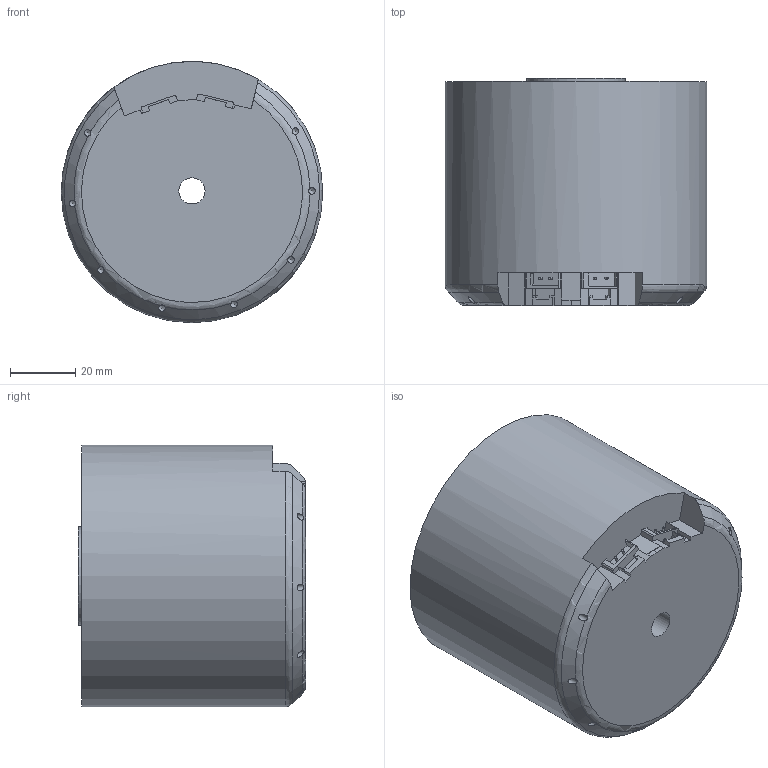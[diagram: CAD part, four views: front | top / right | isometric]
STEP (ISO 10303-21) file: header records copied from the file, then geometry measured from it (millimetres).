
FILE_DESCRIPTION(/* description */ (''),/* implementation_level */ '2;1');
FILE_NAME(/* name */ 'RMBOT80-25-P1-25Nm-PC2.stp',/* time_stamp */ '2025-05-30T20:41:30+08:00',/* author */ (''),/* organization */ (''),/* preprocessor_version */ 'ST-DEVELOPER v16',/* originating_system */ 'SIEMENS PLM Software NX 10.0',/* authorisation */ '');
FILE_SCHEMA (('CONFIG_CONTROL_DESIGN'));
Length unit declared in the file: millimetre
Products named in the file (1): RMBOT80-25-P1-25Nm-PC2_x_t
Bounding box: 80 x 69.5 x 80 mm (x, y, z)
Volume: 331174.3 mm3; surface area: 30341.1 mm2
Topology: 1 solids, 1 shells, 146 faces, 400 edges, 265 vertices
Faces by surface type: plane 92, cylinder 38, cone 9, sphere 4, torus 3
Full cylindrical faces by diameter (mm): 0.645 x4, 2 x8, 2.5 x12, 3.3 x6, 8 x1, 30 x1, 60 x1, 80 x1
Entity records: 4616 total; most frequent: CARTESIAN_POINT 1264, DIRECTION 659, ORIENTED_EDGE 612, EDGE_CURVE 306, VERTEX_POINT 229, AXIS2_PLACEMENT_3D 229, EDGE_LOOP 207, LINE 201
